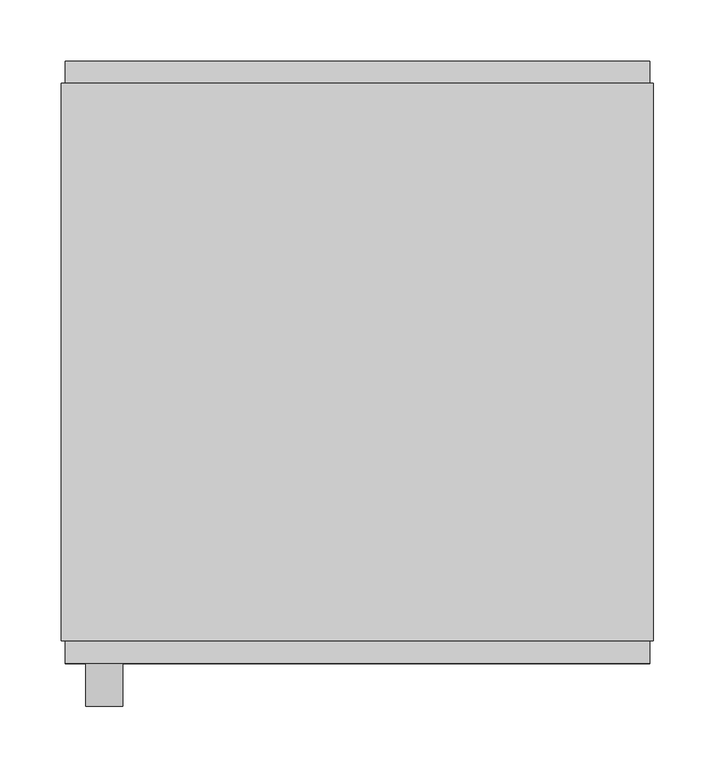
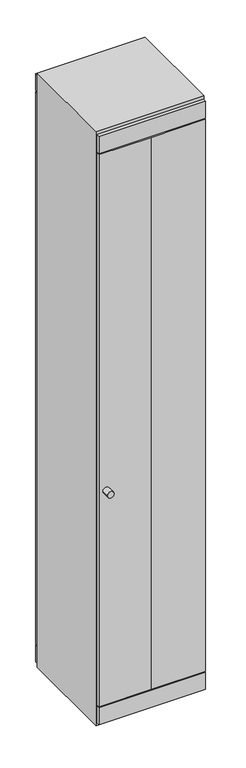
"""IFC4 building model written with IfcOpenShell, lengths in millimetres: furniture geometry, Apex - 1 DOOR - FC OR CAPPED : 1 DOOR - F/C OR CAPPED 500mm(w) x 490mm(d)."""

from ifc_helpers import new_model, si_unit, point, frame, frame_2d, origin, place, context, project, spatial, polyline, circle_curve, trimmed, segment, composite_curve, outline, extrude, source, transform, mapped, element, save


def furniture_4713dafa(model_context):
    return source(origin(), model_context, "Body", "SweptSolid", [
        extrude(outline(composite_curve([segment(trimmed(circle_curve(frame_2d((1108.0, 35.0)), 15.0), [point((1108.0, 20.0))], [point((1108.0, 50.0))], False, "CARTESIAN"), True, "CONTINUOUS"), segment(trimmed(circle_curve(frame_2d((1108.0, 35.0)), 15.0), [point((1108.0, 50.0))], [point((1108.0, 20.0))], False, "CARTESIAN"), True, "CONTINUOUS")], self_intersect=False)), frame((0.0, -525.0, 0.0), z_axis=(0.0, 1.0, 0.0), x_axis=(0.0, 0.0, 1.0)), (0.0, 0.0, 1.0), 35.0),
        extrude(outline(polyline([(2800.0, 482.0), (2800.0, 0.0), (0.0, 0.0), (0.0, 482.0), (2800.0, 482.0)]), holes=[polyline([(115.0, 473.0), (115.0, 9.0), (2685.2991236, 9.0), (2685.2991236, 473.0), (115.0, 473.0)])]), frame((0.0, -472.0, 0.0), z_axis=(0.0, 1.0, 0.0), x_axis=(0.0, 0.0, 1.0)), (0.0, 0.0, 1.0), 454.0),
        extrude(outline(polyline([(236.0, -472.0), (479.0, -472.0), (479.0, -490.0), (236.0, -490.0), (3.0, -490.0), (3.0, -472.0), (236.0, -472.0)])), frame((0.0, 0.0, 100.0), z_axis=(0.0, 0.0, 1.0), x_axis=(1.0, 0.0, 0.0)), (0.0, 0.0, 1.0), 2600.0),
        extrude(outline(polyline([(479.0, 0.0), (479.0, -18.0), (3.0, -18.0), (3.0, 0.0), (479.0, 0.0)])), frame((0.0, 0.0, 100.0), z_axis=(0.0, 0.0, 1.0), x_axis=(1.0, 0.0, 0.0)), (0.0, 0.0, 1.0), 2600.0),
        extrude(outline(polyline([(479.0, -18.0), (3.0, -18.0), (3.0, 0.0), (479.0, 0.0), (479.0, -18.0)])), frame((0.0, 0.0, 2706.0), z_axis=(0.0, 0.0, 1.0), x_axis=(1.0, 0.0, 0.0)), (0.0, 0.0, 1.0), 79.0),
        extrude(outline(polyline([(479.0, -18.0), (3.0, -18.0), (3.0, 0.0), (479.0, 0.0), (479.0, -18.0)])), frame((0.0, 0.0, 15.0), z_axis=(0.0, 0.0, 1.0), x_axis=(1.0, 0.0, 0.0)), (0.0, 0.0, 1.0), 79.0),
        extrude(outline(polyline([(479.0, -490.0), (3.0, -490.0), (3.0, -472.0), (479.0, -472.0), (479.0, -490.0)])), frame((0.0, 0.0, 2706.0), z_axis=(0.0, 0.0, 1.0), x_axis=(1.0, 0.0, 0.0)), (0.0, 0.0, 1.0), 79.0),
        extrude(outline(polyline([(479.0, -490.0), (3.0, -490.0), (3.0, -472.0), (479.0, -472.0), (479.0, -490.0)])), frame((0.0, 0.0, 15.0), z_axis=(0.0, 0.0, 1.0), x_axis=(1.0, 0.0, 0.0)), (0.0, 0.0, 1.0), 79.0),
    ])


if __name__ == "__main__":
    model = new_model("IFC4")
    model_context = context("Model", 3, world=origin())
    ifc_project = project(units=[si_unit("LENGTHUNIT", "METRE", prefix="MILLI")], contexts=[model_context])
    site = spatial("IfcSite", under=ifc_project)
    building = spatial("IfcBuilding", under=site)
    placement = place(None, origin())
    furniture_shape = furniture_4713dafa(model_context)
    element("IfcFurniture", 1, ObjectType="Apex - 1 DOOR - FC OR CAPPED : 1 DOOR - F/C OR CAPPED 500mm(w) x 490mm(d)", at=placement, inside=building, context=model_context, shape_type="MappedRepresentation", body=[
        mapped(furniture_shape, transform((0.0, 0.0, 0.0), x_axis=(1.0, 0.0, 0.0), y_axis=(0.0, 1.0, 0.0), z_axis=(0.0, 0.0, 1.0))),
    ])
    save(model, "model.ifc")
